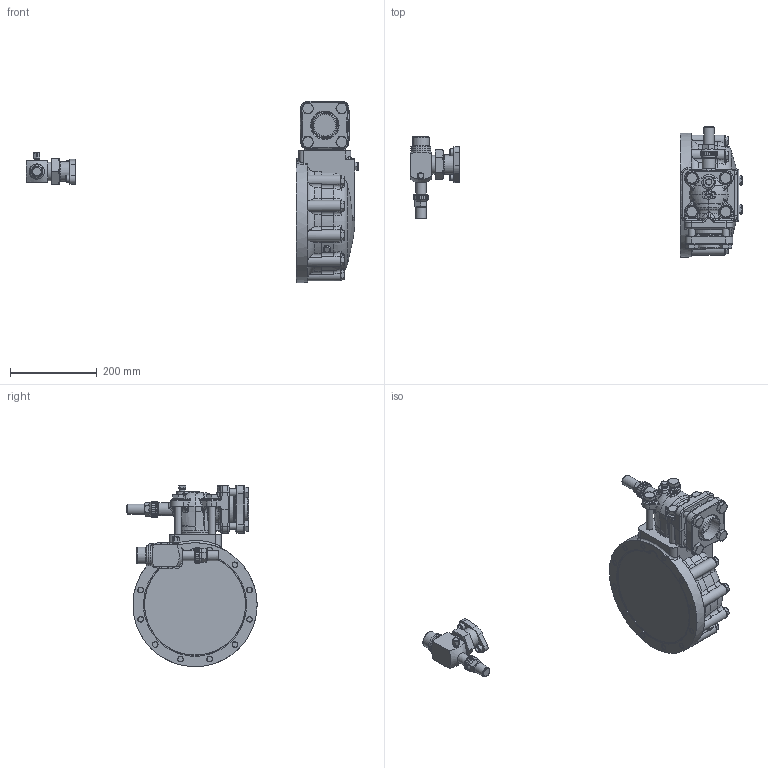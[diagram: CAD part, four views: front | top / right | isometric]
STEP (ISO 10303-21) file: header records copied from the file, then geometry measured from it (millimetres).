
FILE_DESCRIPTION(/* description */ (''),/* implementation_level */ '2;1');
FILE_NAME(/* name */ '6JE22-25-6HE25-28-6GE30-34.stp',/* time_stamp */ '2023-10-27T09:49:25+02:00',/* author */ (''),/* organization */ (''),/* preprocessor_version */ 'ST-DEVELOPER v19.3',/* originating_system */ 'SIEMENS PLM Software NX2212.3001',/* authorisation */ '');
FILE_SCHEMA (('AUTOMOTIVE_DESIGN { 1 0 10303 214 3 1 1 1 }'));
Products named in the file (5): SHUT-OFF-VALVE-D35; FLANGE-VALVE; HOUSING-COVER-4G-6G; SHUT-OFF-VALVE-D54L-DN50; 6JE22-25-6HE25-28-6GE30-34
Assembly tree (4 placements, depth 2):
  6JE22-25-6HE25-28-6GE30-34
    SHUT-OFF-VALVE-D54L-DN50
    HOUSING-COVER-4G-6G
    FLANGE-VALVE
    SHUT-OFF-VALVE-D35
Bounding box: 765.35 x 300.15 x 417.77 mm (x, y, z)
Volume: 9016071.6 mm3; surface area: 598226.3 mm2
Topology: 4 solids, 7 shells, 2737 faces, 7498 edges, 4896 vertices
Faces by surface type: plane 1372, bspline 418, cylinder 338, extrusion 278, cone 220, torus 99, sphere 12
Full cylindrical faces by diameter (mm): 8 x2, 9 x1, 10.72 x1, 11 x3, 12 x12, 13 x24, 13.546 x4, 13.7 x1, 13.716 x1, 16 x10, 17 x4, 23.9 x1, 24 x2, 27 x1, 31 x1, 33 x1, 34 x4, 35.2 x1, 36 x1, 38.5 x1, 41.5 x1, 43 x1, 43.1 x1, 44 x1, 44.5 x1, 44.7 x1, 45 x2, 45.13 x1, 45.5 x1, 46 x3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
Entity records: 120161 total; most frequent: CARTESIAN_POINT 53792, ORIENTED_EDGE 14282, DIRECTION 9139, EDGE_CURVE 7141, VERTEX_POINT 4799, B_SPLINE_CURVE_WITH_KNOTS 3849, AXIS2_PLACEMENT_3D 3250, EDGE_LOOP 3135
